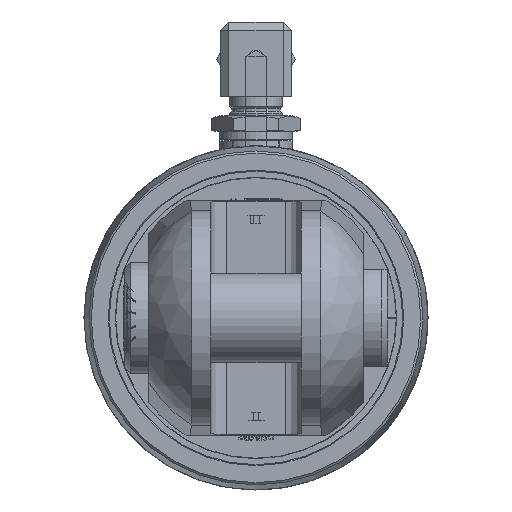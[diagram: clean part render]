
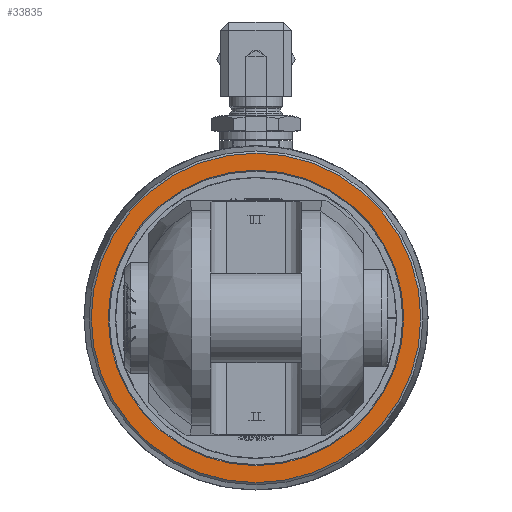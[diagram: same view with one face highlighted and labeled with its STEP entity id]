
A CAD part, left-side view. The second image highlights one B-rep face of the part: STEP entity #33835.
In plain terms, the highlighted planar face has unit normal (-1, 0, 0).
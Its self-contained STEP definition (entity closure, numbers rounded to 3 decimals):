
#475=FACE_BOUND('',#6248,.T.);
#2545=CIRCLE('',#35334,36.75);
#2568=CIRCLE('',#35370,40.988);
#4354=FACE_OUTER_BOUND('',#6247,.T.);
#6247=EDGE_LOOP('',(#28807));
#6248=EDGE_LOOP('',(#28808));
#15147=VERTEX_POINT('',#60941);
#15185=VERTEX_POINT('',#61556);
#19714=EDGE_CURVE('',#15147,#15147,#2545,.T.);
#19770=EDGE_CURVE('',#15185,#15185,#2568,.T.);
#28807=ORIENTED_EDGE('',*,*,#19770,.F.);
#28808=ORIENTED_EDGE('',*,*,#19714,.F.);
#30412=PLANE('',#35369);
#33835=ADVANCED_FACE('',(#4354,#475),#30412,.F.);
#35334=AXIS2_PLACEMENT_3D('',#60942,#40990,#40991);
#35369=AXIS2_PLACEMENT_3D('',#61555,#41080,#41081);
#35370=AXIS2_PLACEMENT_3D('',#61557,#41082,#41083);
#40990=DIRECTION('center_axis',(-1.,0.,0.));
#40991=DIRECTION('ref_axis',(0.,-1.,0.));
#41080=DIRECTION('center_axis',(1.,0.,0.));
#41081=DIRECTION('ref_axis',(0.,0.,-1.));
#41082=DIRECTION('center_axis',(1.,0.,0.));
#41083=DIRECTION('ref_axis',(0.,-1.,0.));
#60941=CARTESIAN_POINT('',(-1202.5,36.75,0.));
#60942=CARTESIAN_POINT('Origin',(-1202.5,0.,0.));
#61555=CARTESIAN_POINT('Origin',(-1202.5,0.,0.));
#61556=CARTESIAN_POINT('',(-1202.5,40.988,0.));
#61557=CARTESIAN_POINT('Origin',(-1202.5,0.,0.));
